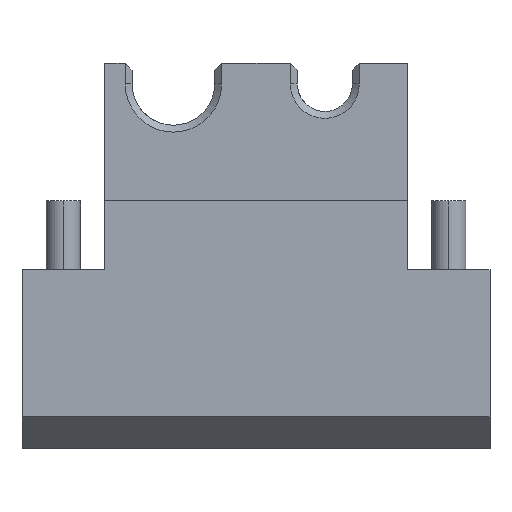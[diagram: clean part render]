
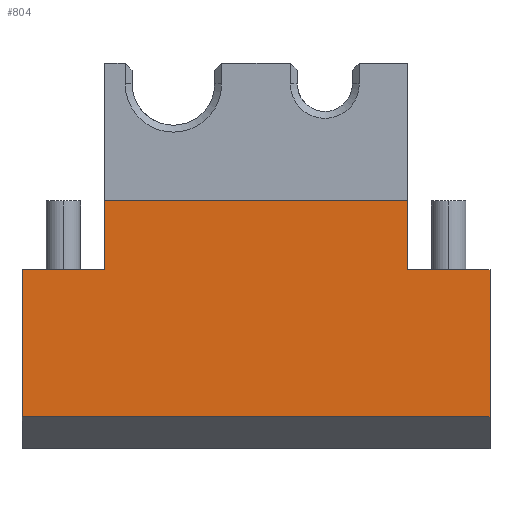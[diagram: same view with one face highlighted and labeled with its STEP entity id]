
A CAD part, left-side view. The second image highlights one B-rep face of the part: STEP entity #804.
In plain terms, the highlighted planar face has unit normal (-1, 0, 0).
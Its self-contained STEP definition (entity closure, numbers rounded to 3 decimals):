
#46 = CARTESIAN_POINT ( 'NONE',  ( 0., -17., 13. ) ) ;
#63 = CARTESIAN_POINT ( 'NONE',  ( 0., -11., 18. ) ) ;
#124 = CARTESIAN_POINT ( 'NONE',  ( 0., 17., 13. ) ) ;
#177 = VECTOR ( 'NONE', #1110, 1000. ) ;
#206 = FACE_OUTER_BOUND ( 'NONE', #1740, .T. ) ;
#207 = DIRECTION ( 'NONE',  ( 0., 0., -1. ) ) ;
#214 = CARTESIAN_POINT ( 'NONE',  ( 0., 17., 13. ) ) ;
#221 = ORIENTED_EDGE ( 'NONE', *, *, #363, .F. ) ;
#247 = AXIS2_PLACEMENT_3D ( 'NONE', #1079, #1510, #1182 ) ;
#264 = CARTESIAN_POINT ( 'NONE',  ( 0., 17., 2.309 ) ) ;
#360 = ORIENTED_EDGE ( 'NONE', *, *, #1475, .T. ) ;
#363 = EDGE_CURVE ( 'NONE', #1131, #1585, #725, .T. ) ;
#392 = CARTESIAN_POINT ( 'NONE',  ( 0., -17., 28. ) ) ;
#398 = EDGE_CURVE ( 'NONE', #1121, #906, #489, .T. ) ;
#401 = DIRECTION ( 'NONE',  ( 0., -1., 0. ) ) ;
#448 = VECTOR ( 'NONE', #707, 1000. ) ;
#459 = LINE ( 'NONE', #779, #1360 ) ;
#489 = LINE ( 'NONE', #1171, #1564 ) ;
#557 = EDGE_CURVE ( 'NONE', #1812, #1131, #1583, .T. ) ;
#597 = CARTESIAN_POINT ( 'NONE',  ( 0., -11., 13. ) ) ;
#633 = ORIENTED_EDGE ( 'NONE', *, *, #898, .F. ) ;
#638 = LINE ( 'NONE', #264, #448 ) ;
#682 = PLANE ( 'NONE',  #247 ) ;
#707 = DIRECTION ( 'NONE',  ( 0., -1., 0. ) ) ;
#720 = CARTESIAN_POINT ( 'NONE',  ( 0., 11., 18. ) ) ;
#725 = LINE ( 'NONE', #597, #1521 ) ;
#740 = CARTESIAN_POINT ( 'NONE',  ( 0., -11., 13. ) ) ;
#749 = VECTOR ( 'NONE', #401, 1000. ) ;
#779 = CARTESIAN_POINT ( 'NONE',  ( 0., 11., 13. ) ) ;
#781 = VERTEX_POINT ( 'NONE', #1233 ) ;
#804 = ADVANCED_FACE ( 'NONE', ( #206 ), #682, .T. ) ;
#829 = DIRECTION ( 'NONE',  ( 0., 0., -1. ) ) ;
#886 = ORIENTED_EDGE ( 'NONE', *, *, #557, .F. ) ;
#898 = EDGE_CURVE ( 'NONE', #1123, #991, #459, .T. ) ;
#905 = ORIENTED_EDGE ( 'NONE', *, *, #1733, .F. ) ;
#906 = VERTEX_POINT ( 'NONE', #1560 ) ;
#991 = VERTEX_POINT ( 'NONE', #720 ) ;
#1079 = CARTESIAN_POINT ( 'NONE',  ( 0., 17., 28. ) ) ;
#1110 = DIRECTION ( 'NONE',  ( 0., 0., -1. ) ) ;
#1121 = VERTEX_POINT ( 'NONE', #124 ) ;
#1123 = VERTEX_POINT ( 'NONE', #1409 ) ;
#1131 = VERTEX_POINT ( 'NONE', #740 ) ;
#1135 = LINE ( 'NONE', #1345, #1285 ) ;
#1160 = DIRECTION ( 'NONE',  ( 0., 0., 1. ) ) ;
#1171 = CARTESIAN_POINT ( 'NONE',  ( 0., 17., 28. ) ) ;
#1182 = DIRECTION ( 'NONE',  ( 0., 0., 1. ) ) ;
#1233 = CARTESIAN_POINT ( 'NONE',  ( 0., -17., 2.309 ) ) ;
#1235 = DIRECTION ( 'NONE',  ( 0., -1., 0. ) ) ;
#1252 = ORIENTED_EDGE ( 'NONE', *, *, #398, .T. ) ;
#1256 = CARTESIAN_POINT ( 'NONE',  ( 0., -11., 28. ) ) ;
#1285 = VECTOR ( 'NONE', #1735, 1000. ) ;
#1313 = ORIENTED_EDGE ( 'NONE', *, *, #1706, .T. ) ;
#1341 = LINE ( 'NONE', #214, #749 ) ;
#1345 = CARTESIAN_POINT ( 'NONE',  ( 0., -17., 18. ) ) ;
#1360 = VECTOR ( 'NONE', #1160, 1000. ) ;
#1409 = CARTESIAN_POINT ( 'NONE',  ( 0., 11., 13. ) ) ;
#1475 = EDGE_CURVE ( 'NONE', #906, #781, #638, .T. ) ;
#1484 = VECTOR ( 'NONE', #829, 1000. ) ;
#1510 = DIRECTION ( 'NONE',  ( -1., 0., 0. ) ) ;
#1519 = EDGE_CURVE ( 'NONE', #1585, #781, #1528, .T. ) ;
#1521 = VECTOR ( 'NONE', #1235, 1000. ) ;
#1528 = LINE ( 'NONE', #392, #1484 ) ;
#1560 = CARTESIAN_POINT ( 'NONE',  ( 0., 17., 2.309 ) ) ;
#1564 = VECTOR ( 'NONE', #207, 1000. ) ;
#1583 = LINE ( 'NONE', #1256, #177 ) ;
#1585 = VERTEX_POINT ( 'NONE', #46 ) ;
#1607 = ORIENTED_EDGE ( 'NONE', *, *, #1519, .F. ) ;
#1706 = EDGE_CURVE ( 'NONE', #1812, #991, #1135, .T. ) ;
#1733 = EDGE_CURVE ( 'NONE', #1121, #1123, #1341, .T. ) ;
#1735 = DIRECTION ( 'NONE',  ( 0., 1., 0. ) ) ;
#1740 = EDGE_LOOP ( 'NONE', ( #1313, #633, #905, #1252, #360, #1607, #221, #886 ) ) ;
#1812 = VERTEX_POINT ( 'NONE', #63 ) ;
